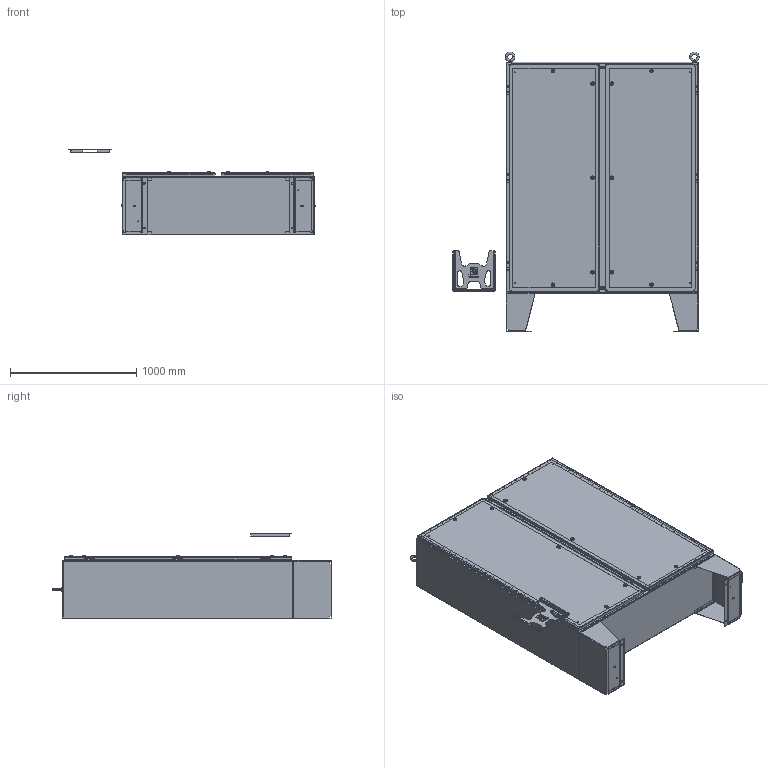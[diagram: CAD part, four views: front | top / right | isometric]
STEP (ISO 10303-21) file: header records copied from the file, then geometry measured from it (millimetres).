
FILE_DESCRIPTION (( 'STEP AP203' ), '1' );
FILE_NAME ('a72h6018sslpqt.STEP', '2013-10-07T17:20:18', ( 'User' ), ( 'Pentair Inc' ), 'SwSTEP 2.0', 'SolidWorks 2010', '' );
FILE_SCHEMA (( 'CONFIG_CONTROL_DESIGN' ));
Products named in the file (43): 87573767; 87573748; 87573769; 87549311; 21158254; 87553391; 99414622_99414622; 99401026_default; 87573197; 87932883; 87794223_87794223; 99402203_99402203; 87578866_87578866; 89078406; 87573742; 99412095; 87577162; 89078407; 87951531; 87573771; 87400434; 87577158; 89056614; 99411089; 99411283; 87960064; 89060306; 11458483; 87932262; 87932266; 87956875; 87577160; 87780100_FLEXIBLE; 23418001; a72h6018sslpqt; 89080843; 87579032; 87579046; 87579044; 87579034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
Assembly tree (98 placements, depth 5):
  a72h6018sslpqt
    87951531  x2
      87400434
      87573771
    87577158  x6
    89056614  x10
      99411089
      99411283
      87960064
        11458483
          87932262
          87932266
          87956875
        89060306
    87577160  x6
    89078406  x2
      87577162
      99412095
      89078407
      87573742
    89080843
      22112003_AFTER WELD  x8
      99412095_Config-Drawing  x2
      87578866_87578866  x2
      87579046
      87579044
      87579034
      87573197  x2
      87579032
      87932883  x2
      87573767
        87549311  x2
        99414622_99414622  x8
        99401026_default  x8
        87573769
        87573748
        21158254  x2
        87553391  x2
      87794223_87794223  x2
      99402203_99402203
      87573472
    87780100_FLEXIBLE
      23418001
Bounding box: 1953.67 x 2218.23 x 677.33 mm (x, y, z)
Volume: 26342313.9 mm3; surface area: 22017219.7 mm2
Topology: 125 solids, 165 shells, 6063 faces, 14822 edges, 9288 vertices
Faces by surface type: plane 2976, cylinder 1918, bspline 551, cone 494, torus 120, sphere 4
Entity records: 84459 total; most frequent: CARTESIAN_POINT 29534, ORIENTED_EDGE 10436, DIRECTION 9325, EDGE_CURVE 5222, LINE 3387, VECTOR 3387, VERTEX_POINT 3287, AXIS2_PLACEMENT_3D 2969
